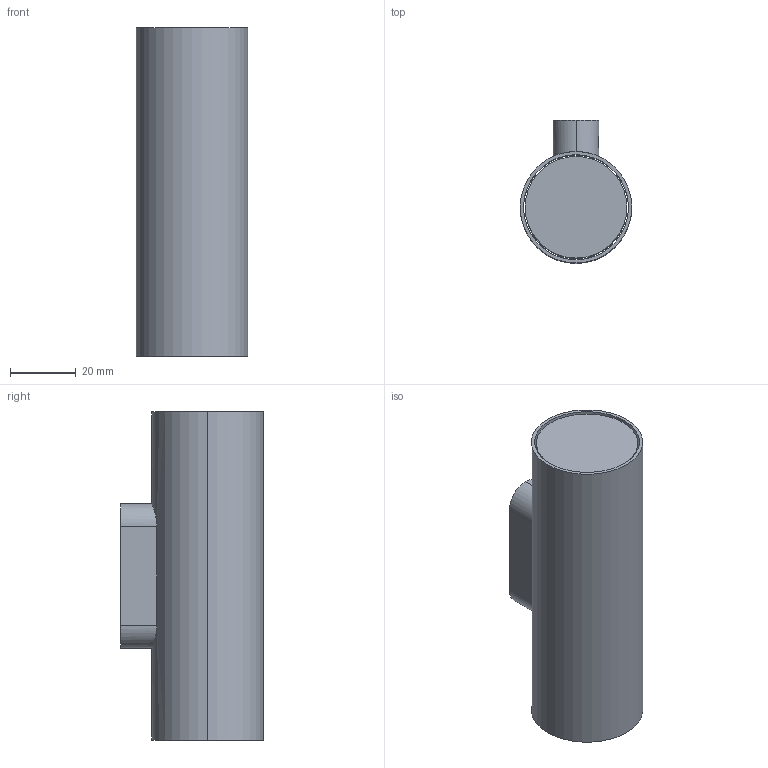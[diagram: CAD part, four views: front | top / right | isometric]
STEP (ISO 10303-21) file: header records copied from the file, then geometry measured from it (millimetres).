
FILE_DESCRIPTION (( 'STEP AP214' ), '1' );
FILE_NAME ('NANOWALL XXS skinny.STEP', '2023-10-27T10:30:47', ( '' ), ( '' ), 'SwSTEP 2.0', 'SolidWorks 2023', '' );
FILE_SCHEMA (( 'AUTOMOTIVE_DESIGN' ));
Length unit declared in the file: millimetre
Products named in the file (1): NANOWALL XXS skinny
Bounding box: 34 x 43.5 x 100 mm (x, y, z)
Surface area: 16897.8 mm2 (no closed solid volume)
Topology: 0 solids, 8 shells, 76 faces, 196 edges, 128 vertices
Faces by surface type: cylinder 44, plane 24, cone 8
Entity records: 3399 total; most frequent: CARTESIAN_POINT 653, DIRECTION 426, ORIENTED_EDGE 346, EDGE_CURVE 196, AXIS2_PLACEMENT_3D 165, VERTEX_POINT 128, VECTOR 96, LINE 96
